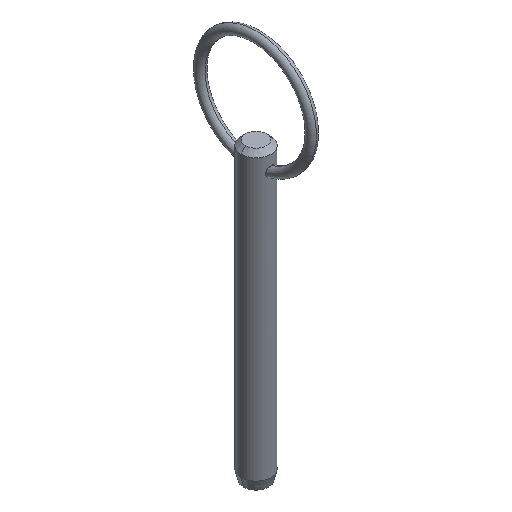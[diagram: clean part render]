
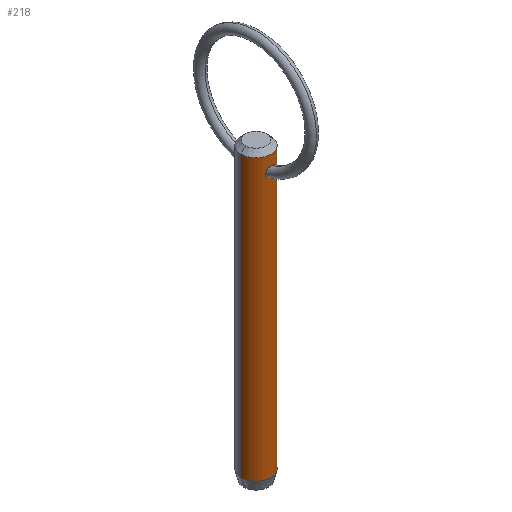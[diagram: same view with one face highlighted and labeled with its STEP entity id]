
A CAD part, isometric view. The second image highlights one B-rep face of the part: STEP entity #218.
In plain terms, the highlighted cylindrical face has radius 3.175 mm (diameter 6.35 mm), a partial arc.
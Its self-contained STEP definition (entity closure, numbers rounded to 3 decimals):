
#1 = CARTESIAN_POINT ( 'NONE',  ( 0., 0., -5.92 ) ) ;
#18 = VECTOR ( 'NONE', #480, 1000. ) ;
#26 = CARTESIAN_POINT ( 'NONE',  ( 0., -3.175, 50.782 ) ) ;
#30 = CARTESIAN_POINT ( 'NONE',  ( -0.134, -3.175, 48.703 ) ) ;
#42 = CARTESIAN_POINT ( 'NONE',  ( -0.516, -3.135, 48.831 ) ) ;
#44 = DIRECTION ( 'NONE',  ( 0., 0., 1. ) ) ;
#50 = LINE ( 'NONE', #472, #280 ) ;
#58 = CARTESIAN_POINT ( 'NONE',  ( -1.004, -3.012, 49.595 ) ) ;
#60 = DIRECTION ( 'NONE',  ( 0., 0., -1. ) ) ;
#65 = CARTESIAN_POINT ( 'NONE',  ( -0.264, -3.165, 50.744 ) ) ;
#67 = VERTEX_POINT ( 'NONE', #114 ) ;
#71 = CARTESIAN_POINT ( 'NONE',  ( -0.328, -3.159, 50.721 ) ) ;
#72 = CARTESIAN_POINT ( 'NONE',  ( -0.629, -3.114, 48.905 ) ) ;
#79 = ORIENTED_EDGE ( 'NONE', *, *, #269, .T. ) ;
#96 = ORIENTED_EDGE ( 'NONE', *, *, #148, .T. ) ;
#97 = AXIS2_PLACEMENT_3D ( 'NONE', #151, #244, #240 ) ;
#105 = CARTESIAN_POINT ( 'NONE',  ( -0.615, -3.116, 50.553 ) ) ;
#114 = CARTESIAN_POINT ( 'NONE',  ( -3.175, 0., 52.88 ) ) ;
#118 = CARTESIAN_POINT ( 'NONE',  ( 3.175, 0., -5.92 ) ) ;
#122 = DIRECTION ( 'NONE',  ( 1., 0., 0. ) ) ;
#127 = EDGE_CURVE ( 'NONE', #67, #203, #351, .T. ) ;
#131 = CARTESIAN_POINT ( 'NONE',  ( -0.882, -3.055, 50.26 ) ) ;
#136 = CARTESIAN_POINT ( 'NONE',  ( 0.51, -3.136, 50.634 ) ) ;
#138 = CARTESIAN_POINT ( 'NONE',  ( -0.133, -3.173, 50.774 ) ) ;
#139 = B_SPLINE_CURVE_WITH_KNOTS ( 'NONE', 3,
 ( #211, #30, #317, #42, #72, #383, #183, #471, #58, #476, #131, #105, #339, #71, #65, #138, #400, #433 ),
 .UNSPECIFIED., .F., .F.,
 ( 4, 2, 2, 2, 2, 2, 2, 2, 4 ),
 ( 0.006, 0.006, 0.007, 0.007, 0.008, 0.008, 0.009, 0.009, 0.009 ),
 .UNSPECIFIED. ) ;
#141 = CARTESIAN_POINT ( 'NONE',  ( 0.515, -3.135, 48.83 ) ) ;
#144 = CARTESIAN_POINT ( 'NONE',  ( -3.175, 0., 48.3 ) ) ;
#148 = EDGE_CURVE ( 'NONE', #203, #418, #331, .T. ) ;
#151 = CARTESIAN_POINT ( 'NONE',  ( 0., 0., 48.3 ) ) ;
#161 = CIRCLE ( 'NONE', #332, 3.175 ) ;
#178 = CARTESIAN_POINT ( 'NONE',  ( 0.268, -3.166, 48.729 ) ) ;
#183 = CARTESIAN_POINT ( 'NONE',  ( -0.888, -3.049, 49.209 ) ) ;
#184 = EDGE_CURVE ( 'NONE', #452, #67, #161, .T. ) ;
#203 = VERTEX_POINT ( 'NONE', #449 ) ;
#211 = CARTESIAN_POINT ( 'NONE',  ( 0., -3.175, 48.703 ) ) ;
#213 = ORIENTED_EDGE ( 'NONE', *, *, #184, .T. ) ;
#218 = ADVANCED_FACE ( 'NONE', ( #455, #256 ), #288, .T. ) ;
#225 = CARTESIAN_POINT ( 'NONE',  ( 0.982, -3.02, 49.458 ) ) ;
#231 = CARTESIAN_POINT ( 'NONE',  ( 0.628, -3.114, 48.904 ) ) ;
#240 = DIRECTION ( 'NONE',  ( -1., 0., 0. ) ) ;
#241 = VERTEX_POINT ( 'NONE', #485 ) ;
#244 = DIRECTION ( 'NONE',  ( 0., 0., -1. ) ) ;
#246 = DIRECTION ( 'NONE',  ( -1., 0., 0. ) ) ;
#256 = FACE_BOUND ( 'NONE', #438, .T. ) ;
#260 = CARTESIAN_POINT ( 'NONE',  ( 0., -3.175, 48.703 ) ) ;
#269 = EDGE_CURVE ( 'NONE', #325, #241, #139, .T. ) ;
#273 = CARTESIAN_POINT ( 'NONE',  ( 3.175, 0., 52.88 ) ) ;
#279 = AXIS2_PLACEMENT_3D ( 'NONE', #1, #44, #246 ) ;
#280 = VECTOR ( 'NONE', #60, 1000. ) ;
#287 = ORIENTED_EDGE ( 'NONE', *, *, #306, .T. ) ;
#288 = CYLINDRICAL_SURFACE ( 'NONE', #97, 3.175 ) ;
#292 = ORIENTED_EDGE ( 'NONE', *, *, #353, .F. ) ;
#306 = EDGE_CURVE ( 'NONE', #241, #325, #413, .T. ) ;
#317 = CARTESIAN_POINT ( 'NONE',  ( -0.269, -3.166, 48.729 ) ) ;
#321 = DIRECTION ( 'NONE',  ( 0., 0., -1. ) ) ;
#325 = VERTEX_POINT ( 'NONE', #260 ) ;
#331 = CIRCLE ( 'NONE', #279, 3.175 ) ;
#332 = AXIS2_PLACEMENT_3D ( 'NONE', #426, #321, #122 ) ;
#339 = CARTESIAN_POINT ( 'NONE',  ( -0.508, -3.136, 50.635 ) ) ;
#343 = CARTESIAN_POINT ( 'NONE',  ( 0.617, -3.116, 50.551 ) ) ;
#351 = LINE ( 'NONE', #144, #18 ) ;
#353 = EDGE_CURVE ( 'NONE', #452, #418, #50, .T. ) ;
#370 = CARTESIAN_POINT ( 'NONE',  ( 0.815, -3.07, 49.095 ) ) ;
#375 = CARTESIAN_POINT ( 'NONE',  ( 0.269, -3.166, 50.75 ) ) ;
#383 = CARTESIAN_POINT ( 'NONE',  ( -0.815, -3.07, 49.095 ) ) ;
#388 = EDGE_LOOP ( 'NONE', ( #292, #213, #402, #96 ) ) ;
#400 = CARTESIAN_POINT ( 'NONE',  ( -0.067, -3.175, 50.782 ) ) ;
#401 = CARTESIAN_POINT ( 'NONE',  ( 0.134, -3.175, 48.703 ) ) ;
#402 = ORIENTED_EDGE ( 'NONE', *, *, #127, .T. ) ;
#403 = CARTESIAN_POINT ( 'NONE',  ( 0.884, -3.055, 50.257 ) ) ;
#404 = CARTESIAN_POINT ( 'NONE',  ( 0.992, -3.016, 49.994 ) ) ;
#407 = CARTESIAN_POINT ( 'NONE',  ( 0., -3.175, 48.703 ) ) ;
#413 = B_SPLINE_CURVE_WITH_KNOTS ( 'NONE', 3,
 ( #26, #431, #375, #136, #343, #403, #404, #468, #225, #437, #370, #231, #141, #178, #401, #407 ),
 .UNSPECIFIED., .F., .F.,
 ( 4, 2, 2, 2, 2, 2, 2, 4 ),
 ( 0.003, 0.003, 0.004, 0.004, 0.005, 0.005, 0.006, 0.006 ),
 .UNSPECIFIED. ) ;
#418 = VERTEX_POINT ( 'NONE', #118 ) ;
#426 = CARTESIAN_POINT ( 'NONE',  ( 0., 0., 52.88 ) ) ;
#431 = CARTESIAN_POINT ( 'NONE',  ( 0.134, -3.175, 50.782 ) ) ;
#433 = CARTESIAN_POINT ( 'NONE',  ( 0., -3.175, 50.782 ) ) ;
#437 = CARTESIAN_POINT ( 'NONE',  ( 0.888, -3.049, 49.209 ) ) ;
#438 = EDGE_LOOP ( 'NONE', ( #287, #79 ) ) ;
#449 = CARTESIAN_POINT ( 'NONE',  ( -3.175, 0., -5.92 ) ) ;
#452 = VERTEX_POINT ( 'NONE', #273 ) ;
#455 = FACE_OUTER_BOUND ( 'NONE', #388, .T. ) ;
#468 = CARTESIAN_POINT ( 'NONE',  ( 1.004, -3.012, 49.593 ) ) ;
#471 = CARTESIAN_POINT ( 'NONE',  ( -0.983, -3.02, 49.459 ) ) ;
#472 = CARTESIAN_POINT ( 'NONE',  ( 3.175, 0., 48.3 ) ) ;
#476 = CARTESIAN_POINT ( 'NONE',  ( -0.991, -3.016, 49.996 ) ) ;
#480 = DIRECTION ( 'NONE',  ( 0., 0., -1. ) ) ;
#485 = CARTESIAN_POINT ( 'NONE',  ( 0., -3.175, 50.782 ) ) ;
